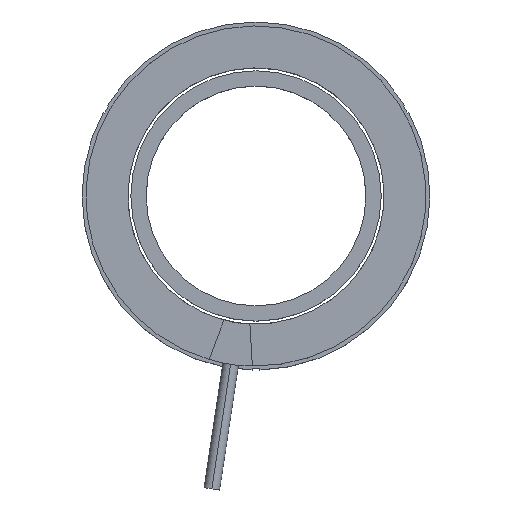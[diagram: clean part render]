
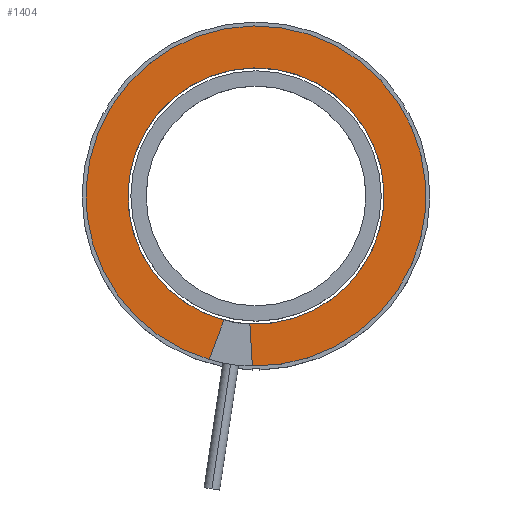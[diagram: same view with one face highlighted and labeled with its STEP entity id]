
A CAD part, top view. The second image highlights one B-rep face of the part: STEP entity #1404.
In plain terms, the highlighted planar face has unit normal (0, 0, 1).
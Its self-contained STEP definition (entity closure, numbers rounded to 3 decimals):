
#132 = ORIENTED_EDGE ( 'NONE', *, *, #3810, .F. ) ;
#229 = AXIS2_PLACEMENT_3D ( 'NONE', #2064, #3403, #4091 ) ;
#331 = EDGE_CURVE ( 'NONE', #885, #4055, #1276, .T. ) ;
#346 = VERTEX_POINT ( 'NONE', #1060 ) ;
#885 = VERTEX_POINT ( 'NONE', #1492 ) ;
#1013 = EDGE_CURVE ( 'NONE', #4055, #3297, #2604, .T. ) ;
#1018 = CARTESIAN_POINT ( 'NONE',  ( 35.669, 125.297, 87.595 ) ) ;
#1060 = CARTESIAN_POINT ( 'NONE',  ( 33.262, 109.428, 87.595 ) ) ;
#1125 = CIRCLE ( 'NONE', #229, 48.95 ) ;
#1171 = CARTESIAN_POINT ( 'NONE',  ( 23.563, 12.139, 87.595 ) ) ;
#1276 = CIRCLE ( 'NONE', #3498, 65. ) ;
#1312 = VERTEX_POINT ( 'NONE', #3583 ) ;
#1360 = CARTESIAN_POINT ( 'NONE',  ( 7.998, -1.448, 87.595 ) ) ;
#1404 = ADVANCED_FACE ( 'NONE', ( #2641 ), #1660, .T. ) ;
#1460 = EDGE_CURVE ( 'NONE', #885, #1312, #3160, .T. ) ;
#1492 = CARTESIAN_POINT ( 'NONE',  ( 24.512, -3.953, 87.595 ) ) ;
#1545 = CIRCLE ( 'NONE', #3293, 48.95 ) ;
#1606 = DIRECTION ( 'NONE',  ( 0., 0., 1. ) ) ;
#1660 = PLANE ( 'NONE',  #3657 ) ;
#1906 = DIRECTION ( 'NONE',  ( -0.15, -0.989, 0. ) ) ;
#1937 = DIRECTION ( 'NONE',  ( -0.15, -0.989, 0. ) ) ;
#1966 = DIRECTION ( 'NONE',  ( 0., 0., 1. ) ) ;
#2048 = CARTESIAN_POINT ( 'NONE',  ( 25.921, 61.032, 87.595 ) ) ;
#2064 = CARTESIAN_POINT ( 'NONE',  ( 25.921, 61.032, 87.595 ) ) ;
#2104 = LINE ( 'NONE', #4073, #3706 ) ;
#2357 = ORIENTED_EDGE ( 'NONE', *, *, #1013, .T. ) ;
#2525 = AXIS2_PLACEMENT_3D ( 'NONE', #2686, #1606, #1906 ) ;
#2604 = CIRCLE ( 'NONE', #2525, 65. ) ;
#2641 = FACE_OUTER_BOUND ( 'NONE', #3445, .T. ) ;
#2686 = CARTESIAN_POINT ( 'NONE',  ( 25.921, 61.032, 87.595 ) ) ;
#2703 = DIRECTION ( 'NONE',  ( -0.15, -0.989, 0. ) ) ;
#2742 = DIRECTION ( 'NONE',  ( -0.352, -0.936, 0. ) ) ;
#2747 = DIRECTION ( 'NONE',  ( -0.059, 0.998, 0. ) ) ;
#2832 = ORIENTED_EDGE ( 'NONE', *, *, #331, .T. ) ;
#2898 = CARTESIAN_POINT ( 'NONE',  ( 13.676, 13.638, 87.595 ) ) ;
#3160 = LINE ( 'NONE', #1171, #4004 ) ;
#3293 = AXIS2_PLACEMENT_3D ( 'NONE', #2048, #1966, #2703 ) ;
#3297 = VERTEX_POINT ( 'NONE', #1360 ) ;
#3341 = EDGE_CURVE ( 'NONE', #1312, #346, #1545, .T. ) ;
#3382 = DIRECTION ( 'NONE',  ( -0.15, -0.989, 0. ) ) ;
#3401 = DIRECTION ( 'NONE',  ( 0., 0., 1. ) ) ;
#3403 = DIRECTION ( 'NONE',  ( 0., 0., 1. ) ) ;
#3445 = EDGE_LOOP ( 'NONE', ( #3488, #2832, #2357, #3676, #132, #4070 ) ) ;
#3488 = ORIENTED_EDGE ( 'NONE', *, *, #1460, .F. ) ;
#3498 = AXIS2_PLACEMENT_3D ( 'NONE', #4107, #3401, #3382 ) ;
#3583 = CARTESIAN_POINT ( 'NONE',  ( 23.563, 12.139, 87.595 ) ) ;
#3646 = CARTESIAN_POINT ( 'NONE',  ( 25.921, 61.032, 87.595 ) ) ;
#3657 = AXIS2_PLACEMENT_3D ( 'NONE', #3646, #4282, #1937 ) ;
#3676 = ORIENTED_EDGE ( 'NONE', *, *, #3789, .F. ) ;
#3706 = VECTOR ( 'NONE', #2742, 1000. ) ;
#3789 = EDGE_CURVE ( 'NONE', #3960, #3297, #2104, .T. ) ;
#3810 = EDGE_CURVE ( 'NONE', #346, #3960, #1125, .T. ) ;
#3960 = VERTEX_POINT ( 'NONE', #2898 ) ;
#4004 = VECTOR ( 'NONE', #2747, 1000. ) ;
#4055 = VERTEX_POINT ( 'NONE', #1018 ) ;
#4070 = ORIENTED_EDGE ( 'NONE', *, *, #3341, .F. ) ;
#4073 = CARTESIAN_POINT ( 'NONE',  ( 13.676, 13.638, 87.595 ) ) ;
#4091 = DIRECTION ( 'NONE',  ( -0.15, -0.989, 0. ) ) ;
#4107 = CARTESIAN_POINT ( 'NONE',  ( 25.921, 61.032, 87.595 ) ) ;
#4282 = DIRECTION ( 'NONE',  ( 0., 0., 1. ) ) ;
